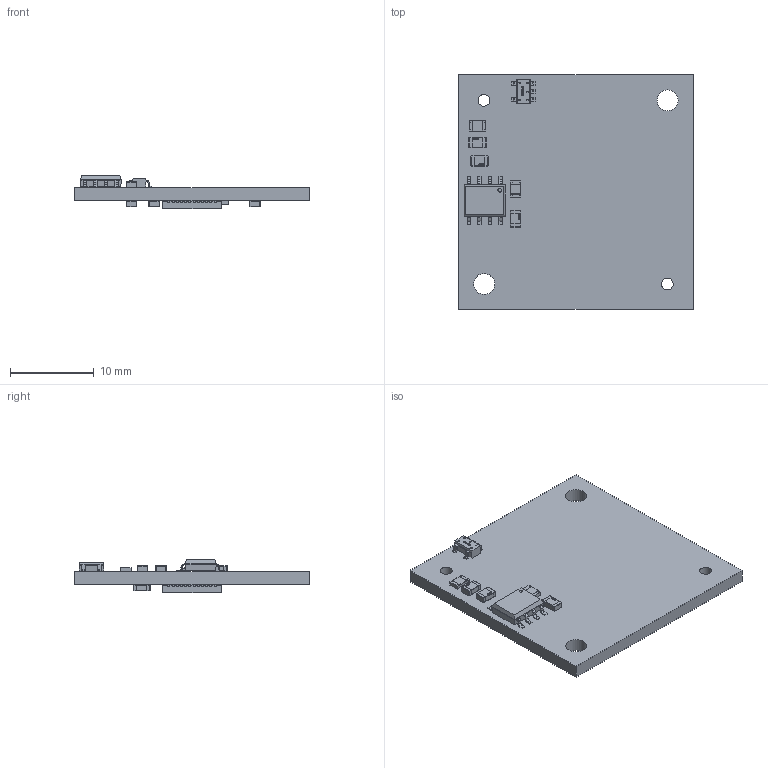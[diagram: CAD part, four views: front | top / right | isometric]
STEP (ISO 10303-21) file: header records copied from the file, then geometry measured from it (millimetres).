
FILE_DESCRIPTION(('Open CASCADE Model'),'2;1');
FILE_NAME('Open CASCADE Shape Model','2021-07-28T08:34:55',('Author'),( 'Open CASCADE'),'Open CASCADE STEP processor 6.8','Open CASCADE 6.8' ,'Unknown');
FILE_SCHEMA(('AUTOMOTIVE_DESIGN { 1 0 10303 214 1 1 1 1 }'));
Length unit declared in the file: millimetre
Products named in the file (24): PCB; Board; R4; SW3dPS-R0805; R3; R2; R1; L1; IC4; SW3DPS-SO-8-DEFAULT; IC2; SW3dPS-SOT23-5; SW3dPS-SOT23-5_SOT23-5_Connector; SW3dPS-SOT23-5_SOT23-5_Body; IC1; QFN48_7x7; C8; C0805; C7; C6; C4; C3; C2; C1
Assembly tree (37 placements, depth 4):
  PCB
    Board
    R4
      SW3dPS-R0805
    R3
      SW3dPS-R0805
    R2
      SW3dPS-R0805
    R1
      SW3dPS-R0805
    L1
      SW3dPS-R0805
    IC4
      SW3DPS-SO-8-DEFAULT
    IC2
      SW3dPS-SOT23-5
        SW3dPS-SOT23-5_SOT23-5_Connector  x5
        SW3dPS-SOT23-5_SOT23-5_Body
    IC1
      QFN48_7x7
    C8
      C0805
    C7
      C0805
    C6
      C0805
    C4
      C0805
    C3
      C0805
    C2
      C0805
    C1
      C0805
Bounding box: 28 x 28 x 3.94 mm (x, y, z)
Volume: 1318.5 mm3; surface area: 2111.5 mm2
Topology: 35 solids, 35 shells, 1766 faces, 4678 edges, 3004 vertices
Faces by surface type: plane 968, bspline 499, cylinder 299
Full cylindrical faces by diameter (mm): 1.4 x2, 2.5 x2
Entity records: 39143 total; most frequent: CARTESIAN_POINT 14333, ORIENTED_EDGE 4592, DIRECTION 3782, EDGE_CURVE 2296, LINE 1708, VECTOR 1708, VERTEX_POINT 1512, AXIS2_PLACEMENT_3D 1037
